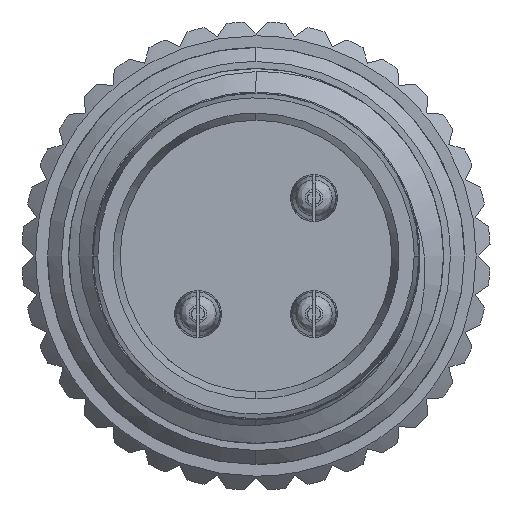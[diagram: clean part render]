
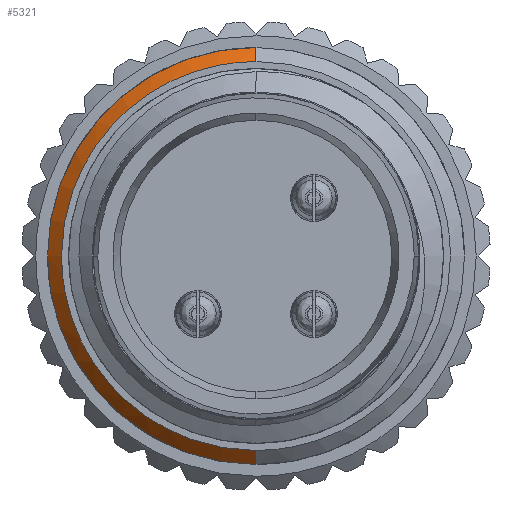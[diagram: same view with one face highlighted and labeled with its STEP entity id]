
A CAD part, left-side view. The second image highlights one B-rep face of the part: STEP entity #5321.
In plain terms, the highlighted conical face has half-angle 45 degrees and reference radius 4.45 mm.
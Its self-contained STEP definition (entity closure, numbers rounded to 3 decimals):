
#1433 = EDGE_CURVE ( 'NONE', #4781, #13242, #25904, .T. ) ;
#1628 = EDGE_CURVE ( 'NONE', #13242, #8324, #17129, .T. ) ;
#2930 = CIRCLE ( 'NONE', #13477, 4.45 ) ;
#3280 = CARTESIAN_POINT ( 'NONE',  ( -7.05, 3.626, 2.09 ) ) ;
#4781 = VERTEX_POINT ( 'NONE', #25560 ) ;
#5065 = AXIS2_PLACEMENT_3D ( 'NONE', #23163, #8146, #25500 ) ;
#5166 = CARTESIAN_POINT ( 'NONE',  ( -7.05, 0., -4.15 ) ) ;
#5321 = ADVANCED_FACE ( 'NONE', ( #17358 ), #16152, .T. ) ;
#5702 = CARTESIAN_POINT ( 'NONE',  ( -7.05, 4.042, 1.086 ) ) ;
#5790 = CARTESIAN_POINT ( 'NONE',  ( -7.05, 4.15, 0. ) ) ;
#7331 = CARTESIAN_POINT ( 'NONE',  ( -7.05, 1.086, -4.042 ) ) ;
#7934 = VECTOR ( 'NONE', #20222, 1000. ) ;
#8146 = DIRECTION ( 'NONE',  ( 1., 0., 0. ) ) ;
#8324 = VERTEX_POINT ( 'NONE', #20321 ) ;
#8330 = VERTEX_POINT ( 'NONE', #5166 ) ;
#9549 = CARTESIAN_POINT ( 'NONE',  ( -7.05, 0., 4.15 ) ) ;
#9680 = CARTESIAN_POINT ( 'NONE',  ( -7.05, 4.15, 0. ) ) ;
#9772 = CARTESIAN_POINT ( 'NONE',  ( -7.05, 3.319, -2.55 ) ) ;
#9807 = CARTESIAN_POINT ( 'NONE',  ( -7.05, 0.543, 4.15 ) ) ;
#9989 = CARTESIAN_POINT ( 'NONE',  ( -7.05, 2.09, 3.626 ) ) ;
#11072 = VERTEX_POINT ( 'NONE', #16293 ) ;
#11636 = CARTESIAN_POINT ( 'NONE',  ( -7.05, 4.042, -1.086 ) ) ;
#11718 = ORIENTED_EDGE ( 'NONE', *, *, #22900, .F. ) ;
#11731 = CARTESIAN_POINT ( 'NONE',  ( -7.05, 0., -4.15 ) ) ;
#11906 = CARTESIAN_POINT ( 'NONE',  ( -7.05, 3.626, -2.09 ) ) ;
#12037 = CARTESIAN_POINT ( 'NONE',  ( -7.05, 3.319, 2.55 ) ) ;
#13242 = VERTEX_POINT ( 'NONE', #9549 ) ;
#13477 = AXIS2_PLACEMENT_3D ( 'NONE', #20325, #16027, #22478 ) ;
#13613 = ORIENTED_EDGE ( 'NONE', *, *, #24782, .F. ) ;
#14022 = CARTESIAN_POINT ( 'NONE',  ( -7.05, 4.15, 0.543 ) ) ;
#14166 = CARTESIAN_POINT ( 'NONE',  ( -7.05, 2.55, -3.319 ) ) ;
#14234 = ORIENTED_EDGE ( 'NONE', *, *, #1433, .T. ) ;
#15102 = VECTOR ( 'NONE', #15510, 1000. ) ;
#15510 = DIRECTION ( 'NONE',  ( 0.707, 0., 0.707 ) ) ;
#16027 = DIRECTION ( 'NONE',  ( 1., 0., 0. ) ) ;
#16033 = B_SPLINE_CURVE_WITH_KNOTS ( 'NONE', 3,
 ( #11731, #24488, #7331, #18121, #14166, #9772, #11906, #11636, #18209, #9680 ),
 .UNSPECIFIED., .F., .F.,
 ( 4, 2, 2, 2, 4 ),
 ( 0.5, 0.625, 0.75, 0.875, 1. ),
 .UNSPECIFIED. ) ;
#16152 = CONICAL_SURFACE ( 'NONE', #5065, 4.45, 0.785 ) ;
#16293 = CARTESIAN_POINT ( 'NONE',  ( -6.75, 0., -4.45 ) ) ;
#17129 = LINE ( 'NONE', #22059, #15102 ) ;
#17358 = FACE_OUTER_BOUND ( 'NONE', #17687, .T. ) ;
#17687 = EDGE_LOOP ( 'NONE', ( #14234, #25400, #13613, #11718, #23403 ) ) ;
#18121 = CARTESIAN_POINT ( 'NONE',  ( -7.05, 2.09, -3.626 ) ) ;
#18209 = CARTESIAN_POINT ( 'NONE',  ( -7.05, 4.15, -0.543 ) ) ;
#18515 = CARTESIAN_POINT ( 'NONE',  ( -7.05, 0., 4.15 ) ) ;
#20222 = DIRECTION ( 'NONE',  ( 0.707, 0., -0.707 ) ) ;
#20321 = CARTESIAN_POINT ( 'NONE',  ( -6.75, 0., 4.45 ) ) ;
#20325 = CARTESIAN_POINT ( 'NONE',  ( -6.75, 0., 0. ) ) ;
#20391 = LINE ( 'NONE', #22282, #7934 ) ;
#21852 = EDGE_CURVE ( 'NONE', #8330, #4781, #16033, .T. ) ;
#22059 = CARTESIAN_POINT ( 'NONE',  ( -6.75, 0., 4.45 ) ) ;
#22282 = CARTESIAN_POINT ( 'NONE',  ( -6.75, 0., -4.45 ) ) ;
#22478 = DIRECTION ( 'NONE',  ( 0., 0., 1. ) ) ;
#22556 = CARTESIAN_POINT ( 'NONE',  ( -7.05, 1.086, 4.042 ) ) ;
#22900 = EDGE_CURVE ( 'NONE', #8330, #11072, #20391, .T. ) ;
#23163 = CARTESIAN_POINT ( 'NONE',  ( -6.75, 0., 0. ) ) ;
#23403 = ORIENTED_EDGE ( 'NONE', *, *, #21852, .T. ) ;
#24488 = CARTESIAN_POINT ( 'NONE',  ( -7.05, 0.543, -4.15 ) ) ;
#24782 = EDGE_CURVE ( 'NONE', #11072, #8324, #2930, .T. ) ;
#25400 = ORIENTED_EDGE ( 'NONE', *, *, #1628, .T. ) ;
#25500 = DIRECTION ( 'NONE',  ( 0., 0., -1. ) ) ;
#25560 = CARTESIAN_POINT ( 'NONE',  ( -7.05, 4.15, 0. ) ) ;
#25904 = B_SPLINE_CURVE_WITH_KNOTS ( 'NONE', 3,
 ( #5790, #14022, #5702, #3280, #12037, #26965, #9989, #22556, #9807, #18515 ),
 .UNSPECIFIED., .F., .F.,
 ( 4, 2, 2, 2, 4 ),
 ( 0., 0.125, 0.25, 0.375, 0.5 ),
 .UNSPECIFIED. ) ;
#26965 = CARTESIAN_POINT ( 'NONE',  ( -7.05, 2.55, 3.319 ) ) ;
